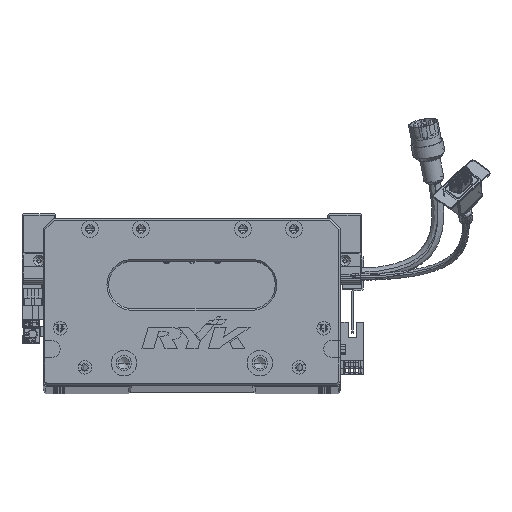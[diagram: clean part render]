
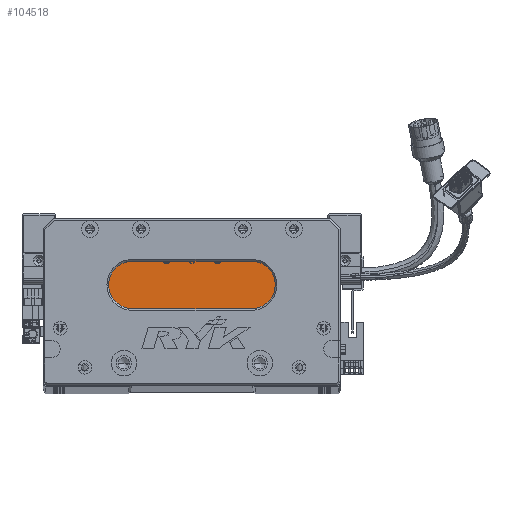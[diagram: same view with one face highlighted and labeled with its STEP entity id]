
A CAD part, top view. The second image highlights one B-rep face of the part: STEP entity #104518.
In plain terms, the highlighted planar face has unit normal (0, 0, 1) as drawn and (0, 0, -1) by its records, which use the part's own axes.
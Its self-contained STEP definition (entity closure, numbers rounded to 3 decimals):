
#2941 = EDGE_CURVE ( 'NONE', #7024, #98080, #67693, .T. ) ;
#3733 = VERTEX_POINT ( 'NONE', #96171 ) ;
#3823 = LINE ( 'NONE', #57063, #88164 ) ;
#7024 = VERTEX_POINT ( 'NONE', #55843 ) ;
#7854 = AXIS2_PLACEMENT_3D ( 'NONE', #83698, #44981, #114028 ) ;
#11395 = AXIS2_PLACEMENT_3D ( 'NONE', #21721, #68874, #108497 ) ;
#12105 = EDGE_LOOP ( 'NONE', ( #60829, #48248, #14213, #38706, #77846 ) ) ;
#14213 = ORIENTED_EDGE ( 'NONE', *, *, #69463, .T. ) ;
#16669 = DIRECTION ( 'NONE',  ( -1., 0., 0. ) ) ;
#18342 = CIRCLE ( 'NONE', #7854, 14. ) ;
#21721 = CARTESIAN_POINT ( 'NONE',  ( 122.5, 59., 18. ) ) ;
#27976 = DIRECTION ( 'NONE',  ( -1., 0., 0. ) ) ;
#29195 = DIRECTION ( 'NONE',  ( 0., 0., -1. ) ) ;
#31393 = CIRCLE ( 'NONE', #56142, 14. ) ;
#31408 = PLANE ( 'NONE',  #11395 ) ;
#37365 = DIRECTION ( 'NONE',  ( 0., 0., -1. ) ) ;
#38706 = ORIENTED_EDGE ( 'NONE', *, *, #52540, .T. ) ;
#44825 = VERTEX_POINT ( 'NONE', #115921 ) ;
#44981 = DIRECTION ( 'NONE',  ( 0., 0., -1. ) ) ;
#45924 = VERTEX_POINT ( 'NONE', #86978 ) ;
#47056 = DIRECTION ( 'NONE',  ( -1., 0., 0. ) ) ;
#47847 = EDGE_CURVE ( 'NONE', #44825, #45924, #3823, .T. ) ;
#48248 = ORIENTED_EDGE ( 'NONE', *, *, #2941, .T. ) ;
#52540 = EDGE_CURVE ( 'NONE', #3733, #44825, #31393, .T. ) ;
#55843 = CARTESIAN_POINT ( 'NONE',  ( 122.5, 45., 18. ) ) ;
#56142 = AXIS2_PLACEMENT_3D ( 'NONE', #77240, #29195, #27976 ) ;
#56917 = FACE_OUTER_BOUND ( 'NONE', #12105, .T. ) ;
#57063 = CARTESIAN_POINT ( 'NONE',  ( 122.5, 73., 18. ) ) ;
#60829 = ORIENTED_EDGE ( 'NONE', *, *, #62281, .T. ) ;
#62281 = EDGE_CURVE ( 'NONE', #45924, #7024, #73354, .T. ) ;
#67693 = LINE ( 'NONE', #120747, #114526 ) ;
#68874 = DIRECTION ( 'NONE',  ( 0., 0., -1. ) ) ;
#69463 = EDGE_CURVE ( 'NONE', #98080, #3733, #18342, .T. ) ;
#73354 = CIRCLE ( 'NONE', #117796, 14. ) ;
#77240 = CARTESIAN_POINT ( 'NONE',  ( 52.5, 59., 18. ) ) ;
#77532 = CARTESIAN_POINT ( 'NONE',  ( 52.5, 45., 18. ) ) ;
#77846 = ORIENTED_EDGE ( 'NONE', *, *, #47847, .T. ) ;
#83698 = CARTESIAN_POINT ( 'NONE',  ( 52.5, 59., 18. ) ) ;
#85382 = CARTESIAN_POINT ( 'NONE',  ( 122.5, 59., 18. ) ) ;
#86978 = CARTESIAN_POINT ( 'NONE',  ( 122.5, 73., 18. ) ) ;
#88164 = VECTOR ( 'NONE', #114816, 1000. ) ;
#96171 = CARTESIAN_POINT ( 'NONE',  ( 38.5, 59., 18. ) ) ;
#98080 = VERTEX_POINT ( 'NONE', #77532 ) ;
#104518 = ADVANCED_FACE ( 'NONE', ( #56917 ), #31408, .T. ) ;
#108497 = DIRECTION ( 'NONE',  ( -1., 0., 0. ) ) ;
#114028 = DIRECTION ( 'NONE',  ( -1., 0., 0. ) ) ;
#114526 = VECTOR ( 'NONE', #16669, 1000. ) ;
#114816 = DIRECTION ( 'NONE',  ( 1., 0., 0. ) ) ;
#115921 = CARTESIAN_POINT ( 'NONE',  ( 52.5, 73., 18. ) ) ;
#117796 = AXIS2_PLACEMENT_3D ( 'NONE', #85382, #37365, #47056 ) ;
#120747 = CARTESIAN_POINT ( 'NONE',  ( 122.5, 45., 18. ) ) ;
